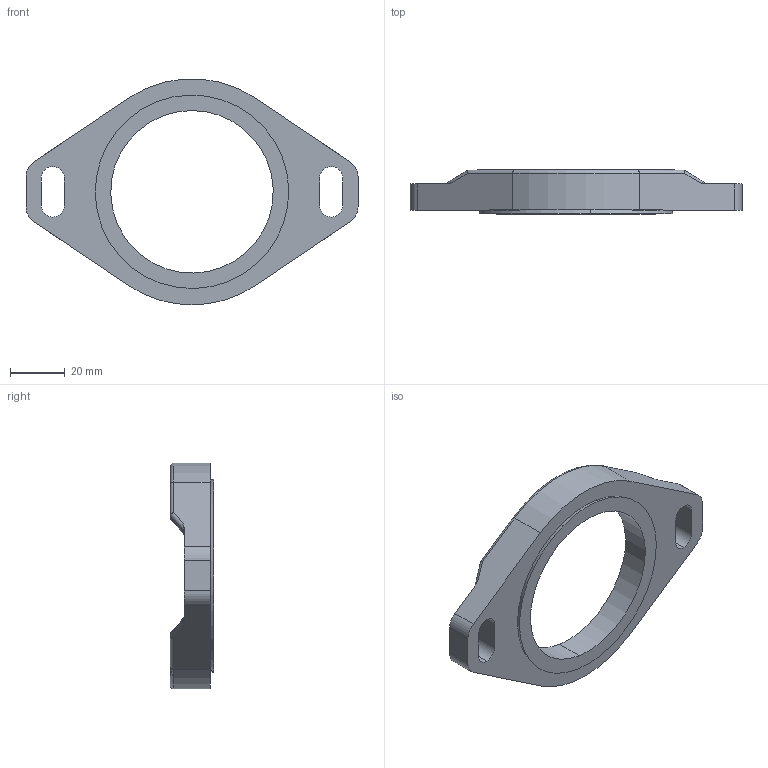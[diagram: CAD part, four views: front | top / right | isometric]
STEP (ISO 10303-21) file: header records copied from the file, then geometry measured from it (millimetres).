
FILE_DESCRIPTION (( 'STEP AP203' ), '1' );
FILE_NAME ('RLF-200P.STEP', '2014-10-29T19:09:39', ( '' ), ( '' ), 'SwSTEP 2.0', 'SolidWorks 2014', '' );
FILE_SCHEMA (( 'CONFIG_CONTROL_DESIGN' ));
Length unit declared in the file: inch
Products named in the file (1): RLF-200P
Bounding box: 121.16 x 15.98 x 82.4 mm (x, y, z)
Surface area: 19501.7 mm2 (no closed solid volume)
Topology: 0 solids, 2 shells, 91 faces, 225 edges, 134 vertices
Faces by surface type: cylinder 44, plane 24, bspline 8, torus 7, cone 4, sphere 4
Entity records: 2956 total; most frequent: CARTESIAN_POINT 767, DIRECTION 454, ORIENTED_EDGE 442, EDGE_CURVE 221, AXIS2_PLACEMENT_3D 173, VERTEX_POINT 134, VECTOR 108, LINE 108
